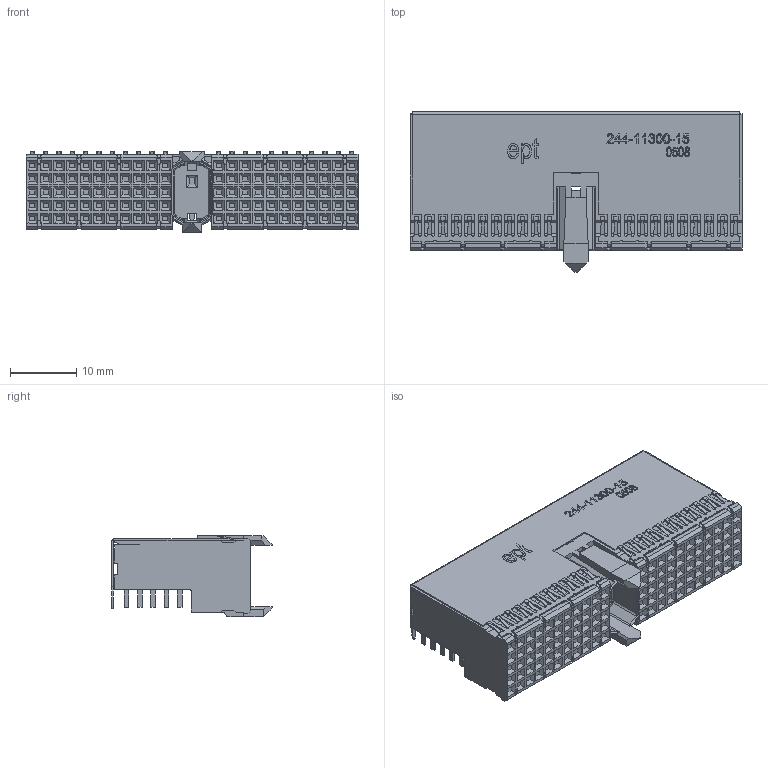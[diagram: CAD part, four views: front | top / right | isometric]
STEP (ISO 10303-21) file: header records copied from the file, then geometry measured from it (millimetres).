
FILE_DESCRIPTION (( 'STEP AP214' ), '1' );
FILE_NAME ('244-11300-15 Vertriebsmodell.STEP', '2008-05-30T08:38:22', ( '' ), ( '' ), 'SwSTEP 2.0', 'SolidWorks 2007', '' );
FILE_SCHEMA (( 'AUTOMOTIVE_DESIGN' ));
Length unit declared in the file: millimetre
Products named in the file (1): 244-11300-15 Vertriebsmodell
Bounding box: 49.94 x 24.11 x 12.25 mm (x, y, z)
Volume: 8346.9 mm3; surface area: 9050.8 mm2
Topology: 1 solids, 1 shells, 4316 faces, 11513 edges, 7430 vertices
Faces by surface type: plane 2937, cylinder 1103, bspline 268, torus 8
Entity records: 140848 total; most frequent: CARTESIAN_POINT 34421, ORIENTED_EDGE 23026, DIRECTION 20519, EDGE_CURVE 11513, VECTOR 8535, LINE 8535, VERTEX_POINT 7430, AXIS2_PLACEMENT_3D 5992
